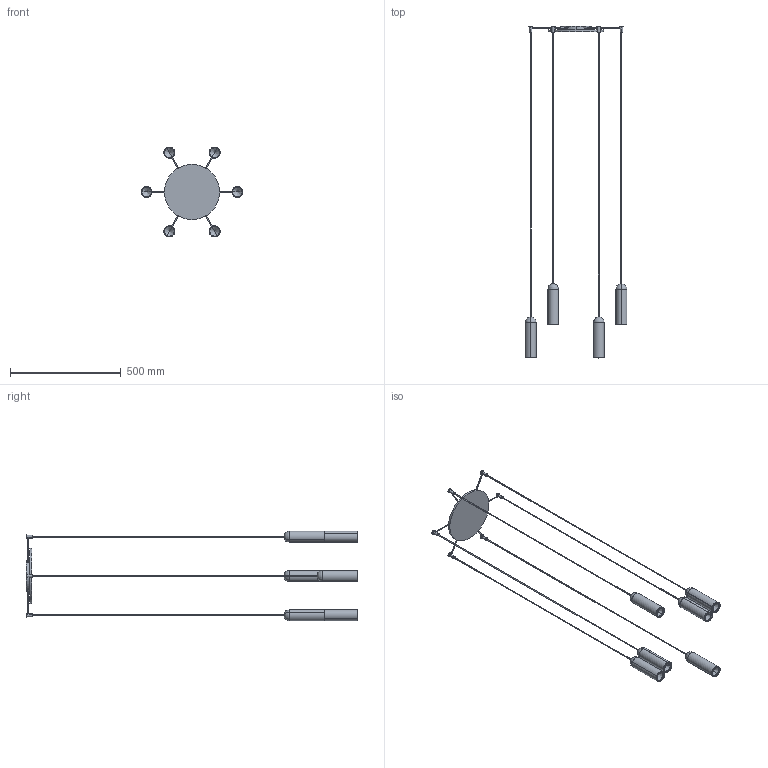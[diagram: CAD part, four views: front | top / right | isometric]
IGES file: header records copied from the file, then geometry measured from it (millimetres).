
Start section: SolidWorks IGES file using analytic representation for surfaces
Global section: file name: Y:\eforma\TECNICO\SOLIDWORKS\E-FORMA\09-LAMPADE\NANUM\08 modelli 3D web\NAN06-00-NANUM 6 ROSONE CENTRALE.IGS; native system: SolidWorks 2022; preprocessor: SolidWorks 2022; author: eforma.tech; date: 240801.144627; units: millimetre
Bounding box: 460 x 1500 x 405.07 mm (x, y, z)
Volume: 1248934 mm3; surface area: 588314.6 mm2
Topology: 19 solids, 19 shells, 228 faces, 446 edges, 257 vertices
Faces by surface type: revolution 181, plane 47
